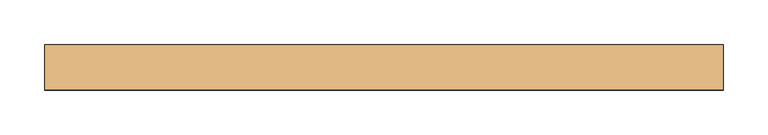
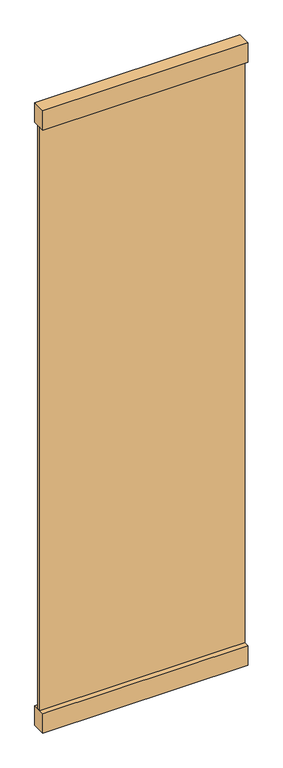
"""IFC4 building model written with IfcOpenShell, lengths in millimetres: door geometry, Planitar - Swap_Full Glass_Panel_D2 : Planitar - Swap_Full Glass_Panel_D2."""

import ifcopenshell
import ifcopenshell.guid

model = None  # the IFC model being written
_history = None  # IfcOwnerHistory: only IFC2X3 demands one
_inside = {}  # id of a spatial element -> (the spatial element, [elements in it])
_under = {}  # id of a project, library or spatial element -> (it, [spatial elements below it])
_declared = {}  # id of a project -> (the project, [libraries it declares])
_typed = {}  # id of a type object -> (the type object, [elements of that type])
_made_of = {}  # id of a material, layer set ... -> (it, [elements and type objects made of it])


def new_model(schema):
    """Start an empty IFC model of exactly this schema.

    Asked for "IFC4X3", IfcOpenShell would pick the latest addendum, in which some entities
    have other attributes; the version numbers below select the first issue.
    IFC2X3 requires an IfcOwnerHistory on every rooted entity: one is made here for all.
    """
    global model, _history
    if schema == "IFC4X3":
        model = ifcopenshell.file(schema_version=(4, 3, 0, 0))
    else:
        model = ifcopenshell.file(schema=schema)
    _inside.clear()
    _under.clear()
    _declared.clear()
    _typed.clear()
    _made_of.clear()
    _history = None
    if model.schema == "IFC2X3":
        org = make("IfcOrganization", Name="unknown")
        user = make(
            "IfcPersonAndOrganization",
            ThePerson=make("IfcPerson", FamilyName="unknown"),
            TheOrganization=org,
        )
        app = make(
            "IfcApplication",
            ApplicationDeveloper=org,
            Version="unknown",
            ApplicationFullName="unknown",
            ApplicationIdentifier="unknown",
        )
        _history = make(
            "IfcOwnerHistory",
            OwningUser=user,
            OwningApplication=app,
            ChangeAction="ADDED",
            CreationDate=0,
        )
    return model


def make(cls, **values):
    """One entity of the class cls with the attributes given. An attribute that is None is left unset."""
    return model.create_entity(
        cls, **{name: value for name, value in values.items() if value is not None}
    )


def rooted(cls, **values):
    """An entity with a GlobalId (a new one), such as an element, a storey or a relation."""
    return make(cls, GlobalId=ifcopenshell.guid.new(), OwnerHistory=_history, **values)


def si_unit(unit_type, name, prefix=None):
    """IfcSIUnit, for example si_unit("LENGTHUNIT", "METRE", prefix="MILLI")."""
    return make("IfcSIUnit", UnitType=unit_type, Prefix=prefix, Name=name)


def assignment(units):
    """IfcUnitAssignment: the units of a project."""
    return None if units is None else make("IfcUnitAssignment", Units=units)


def point(xyz):
    """IfcCartesianPoint."""
    return None if xyz is None else make("IfcCartesianPoint", Coordinates=xyz)


def direction(xyz):
    """IfcDirection."""
    return None if xyz is None else make("IfcDirection", DirectionRatios=xyz)


def frame(location, z_axis=None, x_axis=None):
    """IfcAxis2Placement3D, a coordinate frame: its origin and axes. An axis left out is left unset."""
    return make(
        "IfcAxis2Placement3D",
        Location=point(location),
        Axis=direction(z_axis),
        RefDirection=direction(x_axis),
    )


def origin():
    """The frame at (0, 0, 0) with its axes left unset."""
    return frame((0.0, 0.0, 0.0))


def origin_with_axes():
    """The frame at (0, 0, 0) with the z axis (0, 0, 1) and the x axis (1, 0, 0) written out."""
    return frame((0.0, 0.0, 0.0), z_axis=(0.0, 0.0, 1.0), x_axis=(1.0, 0.0, 0.0))


def place(relative_to, where):
    """IfcLocalPlacement: puts the frame where relative to a parent placement (None: the world)."""
    return make(
        "IfcLocalPlacement", PlacementRelTo=relative_to, RelativePlacement=where
    )


def context(
    kind, dimensions, precision=None, world=None, true_north=None, identifier=None
):
    """IfcGeometricRepresentationContext, for example the 3D "Model" context."""
    return make(
        "IfcGeometricRepresentationContext",
        ContextIdentifier=identifier,
        ContextType=kind,
        CoordinateSpaceDimension=dimensions,
        Precision=precision,
        WorldCoordinateSystem=world,
        TrueNorth=true_north,
    )


def project(units=None, contexts=None):
    """IfcProject with its units and contexts."""
    return rooted(
        "IfcProject",
        Name="project",
        RepresentationContexts=contexts,
        UnitsInContext=assignment(units),
    )


def spatial(cls, under=None, at=None, **own):
    """A site, building, storey or space (cls), placed at a placement, below another one or the project."""
    s = rooted(cls, ObjectPlacement=at, **own)
    if under is not None:
        _under.setdefault(under.id(), (under, []))[1].append(s)
    return s


def polyline(points):
    """IfcPolyline through the points."""
    return make("IfcPolyline", Points=[point(p) for p in points])


def outline(outer, holes=None, kind="AREA"):
    """IfcArbitraryClosedProfileDef: a profile drawn as a closed curve; with holes, ...WithVoids."""
    if holes is None:
        return make("IfcArbitraryClosedProfileDef", ProfileType=kind, OuterCurve=outer)
    return make(
        "IfcArbitraryProfileDefWithVoids",
        ProfileType=kind,
        OuterCurve=outer,
        InnerCurves=holes,
    )


def extrude(swept, where, along, depth):
    """IfcExtrudedAreaSolid: the profile swept, set in the frame where, extruded along a direction by depth."""
    return make(
        "IfcExtrudedAreaSolid",
        SweptArea=swept,
        Position=where,
        ExtrudedDirection=direction(along),
        Depth=depth,
    )


def shape(context_of_items, identifier, shape_type, items):
    """IfcShapeRepresentation: the items that make up one representation, for example the "Body"."""
    return make(
        "IfcShapeRepresentation",
        ContextOfItems=context_of_items,
        RepresentationIdentifier=identifier,
        RepresentationType=shape_type,
        Items=items,
    )


def source(mapping_origin, context_of_items, identifier, shape_type, items):
    """IfcRepresentationMap: a shape defined once, which mapped items show again and again."""
    return make(
        "IfcRepresentationMap",
        MappingOrigin=mapping_origin,
        MappedRepresentation=shape(context_of_items, identifier, shape_type, items),
    )


def transform(
    local_origin,
    x_axis=None,
    y_axis=None,
    z_axis=None,
    scale=None,
    scale2=None,
    scale3=None,
    uniform=True,
):
    """IfcCartesianTransformationOperator3D, or its non-uniform kind. x_axis, y_axis, z_axis: its Axis1, 2, 3."""
    if uniform:
        return make(
            "IfcCartesianTransformationOperator3D",
            Axis1=direction(x_axis),
            Axis2=direction(y_axis),
            LocalOrigin=point(local_origin),
            Scale=scale,
            Axis3=direction(z_axis),
        )
    return make(
        "IfcCartesianTransformationOperator3DnonUniform",
        Axis1=direction(x_axis),
        Axis2=direction(y_axis),
        LocalOrigin=point(local_origin),
        Scale=scale,
        Axis3=direction(z_axis),
        Scale2=scale2,
        Scale3=scale3,
    )


def mapped(mapping_source, mapping_target):
    """IfcMappedItem: shows the shape of a source again, moved by a transform."""
    return make(
        "IfcMappedItem", MappingSource=mapping_source, MappingTarget=mapping_target
    )


def made_of(thing, what):
    """Note that an element or type object is made of a material, layer set ...; save() writes the relation."""
    if what is not None:
        _made_of.setdefault(what.id(), (what, []))[1].append(thing)
    return thing


def element(
    cls,
    number,
    at=None,
    inside=None,
    cuts=None,
    type_object=None,
    material=None,
    context=None,
    identifier="Body",
    shape_type=None,
    held_by="IfcProductDefinitionShape",
    body=None,
    shapes=None,
    **own,
):
    """One element of the class cls, such as IfcWall. Its Tag is "e" and its number.

    at: its placement. inside: the storey or other place that contains it. cuts: it is an
    opening in that element (IfcRelVoidsElement). A single representation is given by context,
    identifier, shape_type and body (its items); several are given by shapes. held_by: the class
    of the entity that holds the representations. save() writes the other relations.
    """
    e = rooted(cls, Tag="e%d" % number, ObjectPlacement=at, **own)
    if body is not None:
        shapes = [shape(context, identifier, shape_type, body)]
    if shapes is not None:
        e.Representation = make(held_by, Representations=shapes)
    if inside is not None:
        _inside.setdefault(inside.id(), (inside, []))[1].append(e)
    if cuts is not None:
        rooted(
            "IfcRelVoidsElement", RelatingBuildingElement=cuts, RelatedOpeningElement=e
        )
    if type_object is not None:
        _typed.setdefault(type_object.id(), (type_object, []))[1].append(e)
    return made_of(e, material)


def aggregate(whole, parts):
    """IfcRelAggregates: a whole, such as a stair, and the parts it consists of."""
    return rooted("IfcRelAggregates", RelatingObject=whole, RelatedObjects=parts)


def save(model, path):
    """Write the relations noted so far, then the file.

    IfcRelAggregates (storeys below a building ...), IfcRelContainedInSpatialStructure (elements
    in a storey), IfcRelDefinesByType, IfcRelAssociatesMaterial and IfcRelDeclares: one each for
    every whole, place, type object, material and project.
    """
    for whole, parts in _under.values():
        aggregate(whole, parts)
    for where, things in _inside.values():
        rooted(
            "IfcRelContainedInSpatialStructure",
            RelatedElements=things,
            RelatingStructure=where,
        )
    for kind, things in _typed.values():
        rooted("IfcRelDefinesByType", RelatedObjects=things, RelatingType=kind)
    for what, things in _made_of.values():
        rooted("IfcRelAssociatesMaterial", RelatedObjects=things, RelatingMaterial=what)
    for by, libraries in _declared.values():
        rooted("IfcRelDeclares", RelatingContext=by, RelatedDefinitions=libraries)
    model.write(path)


def door_6469e1a2(model_context):
    return source(origin(), model_context, "Body", "SweptSolid", [
        extrude(outline(polyline([(381.0, -25.4), (-381.0, -25.4), (-381.0, 25.4), (381.0, 25.4), (381.0, -25.4)])), origin_with_axes(), (0.0, 0.0, 1.0), 76.2),
        extrude(outline(polyline([(381.0, -25.4), (-381.0, -25.4), (-381.0, 25.4), (381.0, 25.4), (381.0, -25.4)])), frame((0.0, 0.0, 2362.2), z_axis=(0.0, 0.0, 1.0), x_axis=(1.0, 0.0, 0.0)), (0.0, 0.0, 1.0), 76.2),
        extrude(outline(polyline([(381.0, -6.35), (-381.0, -6.35), (-381.0, 6.35), (381.0, 6.35), (381.0, -6.35)])), frame((0.0, 0.0, 76.2), z_axis=(0.0, 0.0, 1.0), x_axis=(1.0, 0.0, 0.0)), (0.0, 0.0, 1.0), 2286.0),
    ])


if __name__ == "__main__":
    model = new_model("IFC4")
    model_context = context("Model", 3, world=origin())
    ifc_project = project(units=[si_unit("LENGTHUNIT", "METRE", prefix="MILLI")], contexts=[model_context])
    site = spatial("IfcSite", under=ifc_project)
    building = spatial("IfcBuilding", under=site)
    placement = place(None, origin())
    door_shape = door_6469e1a2(model_context)
    element("IfcDoor", 1, ObjectType="Planitar - Swap_Full Glass_Panel_D2 : Planitar - Swap_Full Glass_Panel_D2", at=placement, inside=building, context=model_context, shape_type="MappedRepresentation", body=[
        mapped(door_shape, transform((0.0, 0.0, 0.0), x_axis=(1.0, 0.0, 0.0), y_axis=(0.0, 1.0, 0.0), z_axis=(0.0, 0.0, 1.0))),
    ])
    save(model, "model.ifc")
